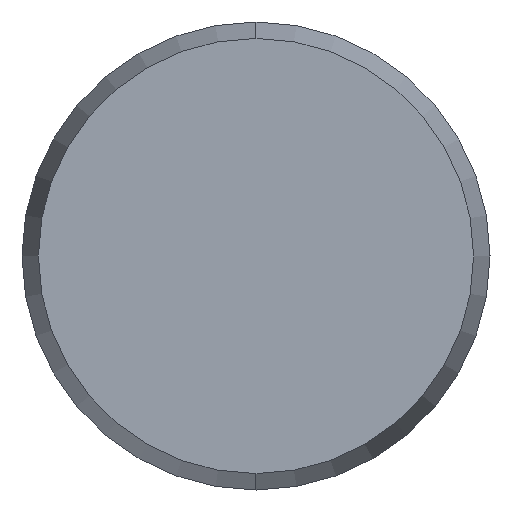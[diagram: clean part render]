
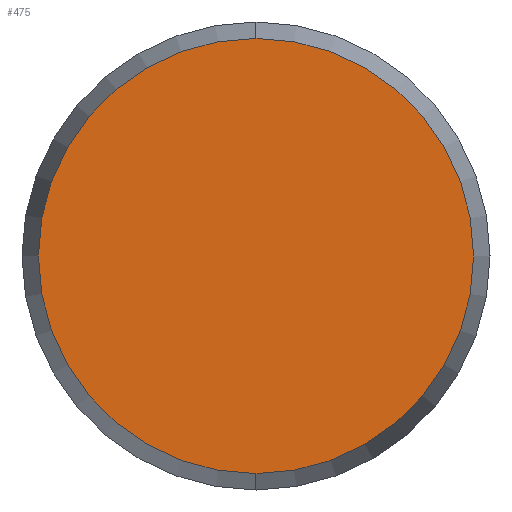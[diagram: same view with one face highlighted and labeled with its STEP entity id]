
A CAD part, left-side view. The second image highlights one B-rep face of the part: STEP entity #475.
In plain terms, the highlighted planar face has unit normal (-1, 0, 0).
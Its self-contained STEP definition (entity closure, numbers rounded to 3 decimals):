
#9 = AXIS2_PLACEMENT_3D ( 'NONE', #99, #160, #401 ) ;
#67 = DIRECTION ( 'NONE',  ( 0., 0., 1. ) ) ;
#76 = ORIENTED_EDGE ( 'NONE', *, *, #108, .F. ) ;
#99 = CARTESIAN_POINT ( 'NONE',  ( -16.5, 0., 0. ) ) ;
#108 = EDGE_CURVE ( 'NONE', #358, #825, #363, .T. ) ;
#160 = DIRECTION ( 'NONE',  ( 1., 0., 0. ) ) ;
#178 = EDGE_LOOP ( 'NONE', ( #76, #364 ) ) ;
#268 = DIRECTION ( 'NONE',  ( -1., 0., 0. ) ) ;
#308 = CARTESIAN_POINT ( 'NONE',  ( -16.5, 0., 0. ) ) ;
#357 = CARTESIAN_POINT ( 'NONE',  ( -16.5, 5.3, 0. ) ) ;
#358 = VERTEX_POINT ( 'NONE', #526 ) ;
#363 = CIRCLE ( 'NONE', #9, 5.3 ) ;
#364 = ORIENTED_EDGE ( 'NONE', *, *, #372, .F. ) ;
#372 = EDGE_CURVE ( 'NONE', #825, #358, #728, .T. ) ;
#395 = AXIS2_PLACEMENT_3D ( 'NONE', #357, #268, #67 ) ;
#401 = DIRECTION ( 'NONE',  ( 0., 0., -1. ) ) ;
#412 = CARTESIAN_POINT ( 'NONE',  ( -16.5, 0., 5.3 ) ) ;
#475 = ADVANCED_FACE ( 'NONE', ( #928 ), #561, .T. ) ;
#526 = CARTESIAN_POINT ( 'NONE',  ( -16.5, 0., -5.3 ) ) ;
#561 = PLANE ( 'NONE',  #395 ) ;
#590 = DIRECTION ( 'NONE',  ( 1., 0., 0. ) ) ;
#728 = CIRCLE ( 'NONE', #848, 5.3 ) ;
#811 = DIRECTION ( 'NONE',  ( 0., 0., -1. ) ) ;
#825 = VERTEX_POINT ( 'NONE', #412 ) ;
#848 = AXIS2_PLACEMENT_3D ( 'NONE', #308, #590, #811 ) ;
#928 = FACE_OUTER_BOUND ( 'NONE', #178, .T. ) ;
